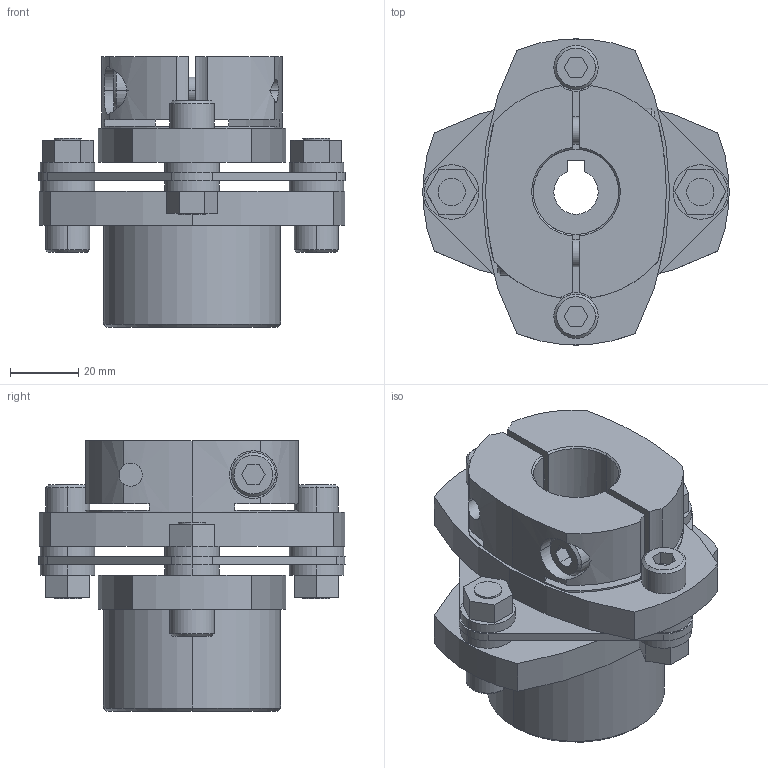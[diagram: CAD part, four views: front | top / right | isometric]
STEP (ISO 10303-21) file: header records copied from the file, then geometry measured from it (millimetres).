
FILE_DESCRIPTION((''),'2;1');
FILE_NAME('LCS-90M-16L亊25B.stp','2015-10-28T04:12:00',(''),(''),'AutoCAD STEP 2000i','AutoCAD 2000i',', , ');
FILE_SCHEMA(('CONFIG_CONTROL_DESIGN'));
Length unit declared in the file: millimetre
Products named in the file (6): LCS-90M-16L×19B; 忣兜1; LC90M-L016; LC90-B019-1; LC90-B019; LCS90-ITA
Assembly tree (5 placements, depth 2):
  LCS-90M-16L×19B
    忣兜1
    LC90M-L016
    LC90-B019-1
    LC90-B019
    LCS90-ITA
Bounding box: 90 x 89.94 x 79.5 mm (x, y, z)
Volume: 194579.7 mm3; surface area: 50817.6 mm2
Topology: 1 solids, 1 shells, 234 faces, 588 edges, 386 vertices
Faces by surface type: plane 115, cylinder 96, cone 23
Entity records: 7529 total; most frequent: CARTESIAN_POINT 1546, DIRECTION 1272, ORIENTED_EDGE 1176, EDGE_CURVE 588, AXIS2_PLACEMENT_3D 466, VERTEX_POINT 386, VECTOR 340, LINE 340
